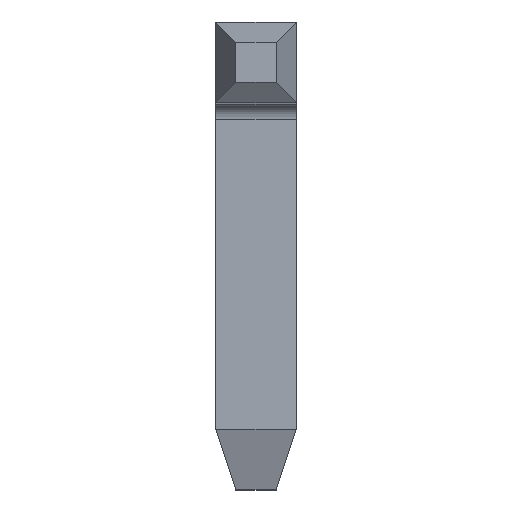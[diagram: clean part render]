
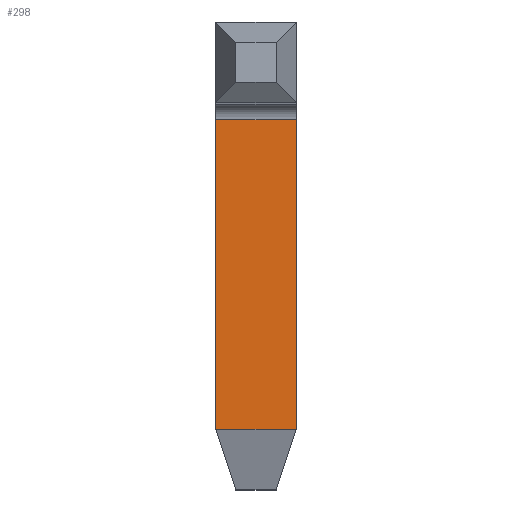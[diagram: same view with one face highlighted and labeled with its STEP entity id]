
A CAD part, top view. The second image highlights one B-rep face of the part: STEP entity #298.
In plain terms, the highlighted planar face has unit normal (0, 0, 1).
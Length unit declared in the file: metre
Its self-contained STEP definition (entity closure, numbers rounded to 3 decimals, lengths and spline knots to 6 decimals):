
#74=ORIENTED_EDGE('',*,*,#124,.F.);
#75=ORIENTED_EDGE('',*,*,#117,.T.);
#76=ORIENTED_EDGE('',*,*,#128,.T.);
#77=ORIENTED_EDGE('',*,*,#131,.F.);
#117=EDGE_CURVE('',#151,#150,#180,.T.);
#124=EDGE_CURVE('',#151,#153,#185,.T.);
#128=EDGE_CURVE('',#150,#158,#188,.T.);
#131=EDGE_CURVE('',#153,#158,#191,.T.);
#150=VERTEX_POINT('',#461);
#151=VERTEX_POINT('',#463);
#153=VERTEX_POINT('',#468);
#158=VERTEX_POINT('',#485);
#180=LINE('',#462,#216);
#185=LINE('',#477,#221);
#188=LINE('',#484,#224);
#191=LINE('',#490,#227);
#216=VECTOR('',#377,1.);
#221=VECTOR('',#390,1.);
#224=VECTOR('',#399,1.);
#227=VECTOR('',#404,1.);
#246=EDGE_LOOP('',(#74,#75,#76,#77));
#264=FACE_BOUND('',#246,.T.);
#280=PLANE('',#333);
#298=ADVANCED_FACE('',(#264),#280,.F.);
#333=AXIS2_PLACEMENT_3D('',#489,#402,#403);
#377=DIRECTION('',(-1.,0.,0.));
#390=DIRECTION('',(0.,-1.,0.));
#399=DIRECTION('',(0.,-1.,0.));
#402=DIRECTION('',(0.,0.,-1.));
#403=DIRECTION('',(0.,-1.,0.));
#404=DIRECTION('',(-1.,0.,0.));
#461=CARTESIAN_POINT('',(0.15537,-0.086362,0.001695));
#462=CARTESIAN_POINT('',(0.15577,-0.086362,0.001695));
#463=CARTESIAN_POINT('',(0.15577,-0.086362,0.001695));
#468=CARTESIAN_POINT('',(0.15577,-0.0879,0.001695));
#477=CARTESIAN_POINT('',(0.15577,-0.086362,0.001695));
#484=CARTESIAN_POINT('',(0.15537,-0.086362,0.001695));
#485=CARTESIAN_POINT('',(0.15537,-0.0879,0.001695));
#489=CARTESIAN_POINT('',(0.15577,-0.086362,0.001695));
#490=CARTESIAN_POINT('',(0.15577,-0.0879,0.001695));
